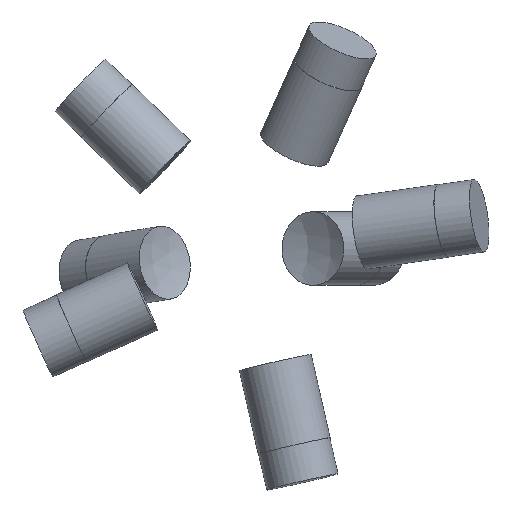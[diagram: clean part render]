
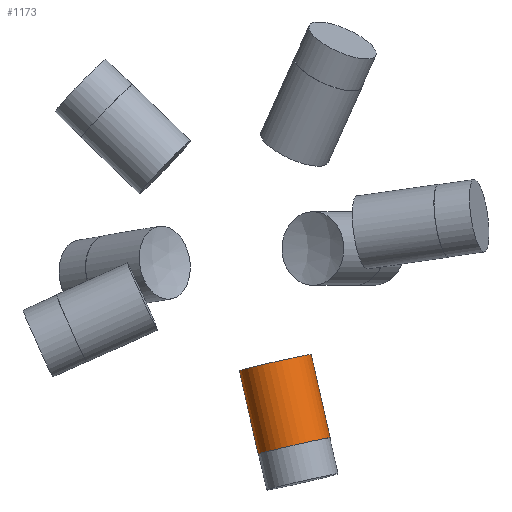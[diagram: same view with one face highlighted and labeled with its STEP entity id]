
A CAD part, top view. The second image highlights one B-rep face of the part: STEP entity #1173.
In plain terms, the highlighted cylindrical face has radius 6 mm (diameter 12 mm), a full revolution.
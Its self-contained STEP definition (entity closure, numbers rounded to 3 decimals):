
#33 = SPHERICAL_SURFACE('',#34,20.);
#34 = AXIS2_PLACEMENT_3D('',#35,#36,#37);
#35 = CARTESIAN_POINT('',(0.,0.,0.));
#36 = DIRECTION('',(0.,0.,1.));
#37 = DIRECTION('',(1.,0.,-0.));
#756 = EDGE_CURVE('',#757,#757,#759,.T.);
#757 = VERTEX_POINT('',#758);
#758 = CARTESIAN_POINT('',(-1.619,-19.93,
    0.428));
#759 = SURFACE_CURVE('',#760,(#765,#827),.PCURVE_S1.);
#760 = CIRCLE('',#761,6.);
#761 = AXIS2_PLACEMENT_3D('',#762,#763,#764);
#762 = CARTESIAN_POINT('',(4.232,-18.599,0.428
    ));
#763 = DIRECTION('',(0.222,-0.975,0.022)
  );
#764 = DIRECTION('',(0.975,0.222,0.));
#765 = PCURVE('',#33,#766);
#766 = DEFINITIONAL_REPRESENTATION('',(#767),#826);
#767 = B_SPLINE_CURVE_WITH_KNOTS('',8,(#768,#769,#770,#771,#772,#773,
    #774,#775,#776,#777,#778,#779,#780,#781,#782,#783,#784,#785,#786,
    #787,#788,#789,#790,#791,#792,#793,#794,#795,#796,#797,#798,#799,
    #800,#801,#802,#803,#804,#805,#806,#807,#808,#809,#810,#811,#812,
    #813,#814,#815,#816,#817,#818,#819,#820,#821,#822,#823,#824,#825),
  .UNSPECIFIED.,.F.,.F.,(9,7,7,7,7,7,7,7,9),(3.142,
    3.927,4.614,5.216,6.268,
    7.057,7.649,8.537,9.425),
  .UNSPECIFIED.);
#768 = CARTESIAN_POINT('',(4.631,0.021));
#769 = CARTESIAN_POINT('',(4.632,-0.008));
#770 = CARTESIAN_POINT('',(4.635,-0.038));
#771 = CARTESIAN_POINT('',(4.641,-0.067));
#772 = CARTESIAN_POINT('',(4.651,-0.095));
#773 = CARTESIAN_POINT('',(4.664,-0.122));
#774 = CARTESIAN_POINT('',(4.679,-0.147));
#775 = CARTESIAN_POINT('',(4.697,-0.171));
#776 = CARTESIAN_POINT('',(4.737,-0.21));
#777 = CARTESIAN_POINT('',(4.757,-0.227));
#778 = CARTESIAN_POINT('',(4.779,-0.242));
#779 = CARTESIAN_POINT('',(4.802,-0.255));
#780 = CARTESIAN_POINT('',(4.827,-0.265));
#781 = CARTESIAN_POINT('',(4.852,-0.273));
#782 = CARTESIAN_POINT('',(4.879,-0.278));
#783 = CARTESIAN_POINT('',(4.929,-0.283));
#784 = CARTESIAN_POINT('',(4.952,-0.283));
#785 = CARTESIAN_POINT('',(4.976,-0.282));
#786 = CARTESIAN_POINT('',(4.999,-0.278));
#787 = CARTESIAN_POINT('',(5.022,-0.272));
#788 = CARTESIAN_POINT('',(5.044,-0.264));
#789 = CARTESIAN_POINT('',(5.066,-0.255));
#790 = CARTESIAN_POINT('',(5.121,-0.224));
#791 = CARTESIAN_POINT('',(5.153,-0.199));
#792 = CARTESIAN_POINT('',(5.181,-0.17));
#793 = CARTESIAN_POINT('',(5.204,-0.137));
#794 = CARTESIAN_POINT('',(5.221,-0.1));
#795 = CARTESIAN_POINT('',(5.233,-0.062));
#796 = CARTESIAN_POINT('',(5.24,-0.023));
#797 = CARTESIAN_POINT('',(5.241,0.046));
#798 = CARTESIAN_POINT('',(5.239,0.076));
#799 = CARTESIAN_POINT('',(5.233,0.105));
#800 = CARTESIAN_POINT('',(5.224,0.134));
#801 = CARTESIAN_POINT('',(5.212,0.161));
#802 = CARTESIAN_POINT('',(5.197,0.187));
#803 = CARTESIAN_POINT('',(5.179,0.211));
#804 = CARTESIAN_POINT('',(5.143,0.249));
#805 = CARTESIAN_POINT('',(5.126,0.264));
#806 = CARTESIAN_POINT('',(5.108,0.278));
#807 = CARTESIAN_POINT('',(5.088,0.29));
#808 = CARTESIAN_POINT('',(5.067,0.3));
#809 = CARTESIAN_POINT('',(5.046,0.309));
#810 = CARTESIAN_POINT('',(5.023,0.316));
#811 = CARTESIAN_POINT('',(4.966,0.328));
#812 = CARTESIAN_POINT('',(4.931,0.33));
#813 = CARTESIAN_POINT('',(4.895,0.329));
#814 = CARTESIAN_POINT('',(4.86,0.322));
#815 = CARTESIAN_POINT('',(4.826,0.312));
#816 = CARTESIAN_POINT('',(4.794,0.297));
#817 = CARTESIAN_POINT('',(4.765,0.279));
#818 = CARTESIAN_POINT('',(4.713,0.235));
#819 = CARTESIAN_POINT('',(4.69,0.21));
#820 = CARTESIAN_POINT('',(4.67,0.182));
#821 = CARTESIAN_POINT('',(4.655,0.152));
#822 = CARTESIAN_POINT('',(4.643,0.121));
#823 = CARTESIAN_POINT('',(4.635,0.088));
#824 = CARTESIAN_POINT('',(4.631,0.055));
#825 = CARTESIAN_POINT('',(4.631,0.021));
#826 = ( GEOMETRIC_REPRESENTATION_CONTEXT(2) 
PARAMETRIC_REPRESENTATION_CONTEXT() REPRESENTATION_CONTEXT('2D SPACE',''
  ) );
#827 = PCURVE('',#828,#833);
#828 = CYLINDRICAL_SURFACE('',#829,6.);
#829 = AXIS2_PLACEMENT_3D('',#830,#831,#832);
#830 = CARTESIAN_POINT('',(0.,0.,0.));
#831 = DIRECTION('',(0.222,-0.975,0.022)
  );
#832 = DIRECTION('',(-0.975,-0.222,0.)
  );
#833 = DEFINITIONAL_REPRESENTATION('',(#834),#838);
#834 = LINE('',#835,#836);
#835 = CARTESIAN_POINT('',(-3.142,19.079));
#836 = VECTOR('',#837,1.);
#837 = DIRECTION('',(1.,0.));
#838 = ( GEOMETRIC_REPRESENTATION_CONTEXT(2) 
PARAMETRIC_REPRESENTATION_CONTEXT() REPRESENTATION_CONTEXT('2D SPACE',''
  ) );
#1173 = ADVANCED_FACE('',(#1174),#828,.T.);
#1174 = FACE_BOUND('',#1175,.T.);
#1175 = EDGE_LOOP('',(#1176,#1199,#1226,#1227));
#1176 = ORIENTED_EDGE('',*,*,#1177,.T.);
#1177 = EDGE_CURVE('',#757,#1178,#1180,.T.);
#1178 = VERTEX_POINT('',#1179);
#1179 = CARTESIAN_POINT('',(1.471,-33.508,
    0.74));
#1180 = SEAM_CURVE('',#1181,(#1185,#1192),.PCURVE_S1.);
#1181 = LINE('',#1182,#1183);
#1182 = CARTESIAN_POINT('',(-5.85,-1.331,
    0.));
#1183 = VECTOR('',#1184,1.);
#1184 = DIRECTION('',(0.222,-0.975,0.022)
  );
#1185 = PCURVE('',#828,#1186);
#1186 = DEFINITIONAL_REPRESENTATION('',(#1187),#1191);
#1187 = LINE('',#1188,#1189);
#1188 = CARTESIAN_POINT('',(6.283,-0.));
#1189 = VECTOR('',#1190,1.);
#1190 = DIRECTION('',(0.,1.));
#1191 = ( GEOMETRIC_REPRESENTATION_CONTEXT(2) 
PARAMETRIC_REPRESENTATION_CONTEXT() REPRESENTATION_CONTEXT('2D SPACE',''
  ) );
#1192 = PCURVE('',#828,#1193);
#1193 = DEFINITIONAL_REPRESENTATION('',(#1194),#1198);
#1194 = LINE('',#1195,#1196);
#1195 = CARTESIAN_POINT('',(0.,-0.));
#1196 = VECTOR('',#1197,1.);
#1197 = DIRECTION('',(0.,1.));
#1198 = ( GEOMETRIC_REPRESENTATION_CONTEXT(2) 
PARAMETRIC_REPRESENTATION_CONTEXT() REPRESENTATION_CONTEXT('2D SPACE',''
  ) );
#1199 = ORIENTED_EDGE('',*,*,#1200,.F.);
#1200 = EDGE_CURVE('',#1178,#1178,#1201,.T.);
#1201 = SURFACE_CURVE('',#1202,(#1207,#1214),.PCURVE_S1.);
#1202 = CIRCLE('',#1203,6.);
#1203 = AXIS2_PLACEMENT_3D('',#1204,#1205,#1206);
#1204 = CARTESIAN_POINT('',(7.322,-32.177,
    0.74));
#1205 = DIRECTION('',(0.222,-0.975,0.022)
  );
#1206 = DIRECTION('',(-0.975,-0.222,0.)
  );
#1207 = PCURVE('',#828,#1208);
#1208 = DEFINITIONAL_REPRESENTATION('',(#1209),#1213);
#1209 = LINE('',#1210,#1211);
#1210 = CARTESIAN_POINT('',(0.,33.008));
#1211 = VECTOR('',#1212,1.);
#1212 = DIRECTION('',(1.,0.));
#1213 = ( GEOMETRIC_REPRESENTATION_CONTEXT(2) 
PARAMETRIC_REPRESENTATION_CONTEXT() REPRESENTATION_CONTEXT('2D SPACE',''
  ) );
#1214 = PCURVE('',#1215,#1220);
#1215 = PLANE('',#1216);
#1216 = AXIS2_PLACEMENT_3D('',#1217,#1218,#1219);
#1217 = CARTESIAN_POINT('',(7.322,-32.177,
    0.74));
#1218 = DIRECTION('',(0.222,-0.975,0.022)
  );
#1219 = DIRECTION('',(-0.975,-0.222,0.)
  );
#1220 = DEFINITIONAL_REPRESENTATION('',(#1221),#1225);
#1221 = CIRCLE('',#1222,6.);
#1222 = AXIS2_PLACEMENT_2D('',#1223,#1224);
#1223 = CARTESIAN_POINT('',(0.,0.));
#1224 = DIRECTION('',(1.,0.));
#1225 = ( GEOMETRIC_REPRESENTATION_CONTEXT(2) 
PARAMETRIC_REPRESENTATION_CONTEXT() REPRESENTATION_CONTEXT('2D SPACE',''
  ) );
#1226 = ORIENTED_EDGE('',*,*,#1177,.F.);
#1227 = ORIENTED_EDGE('',*,*,#756,.T.);
